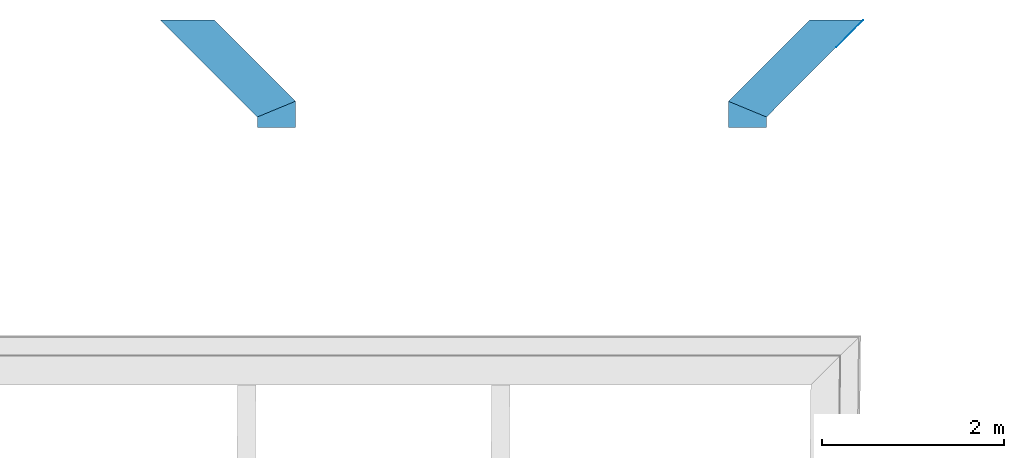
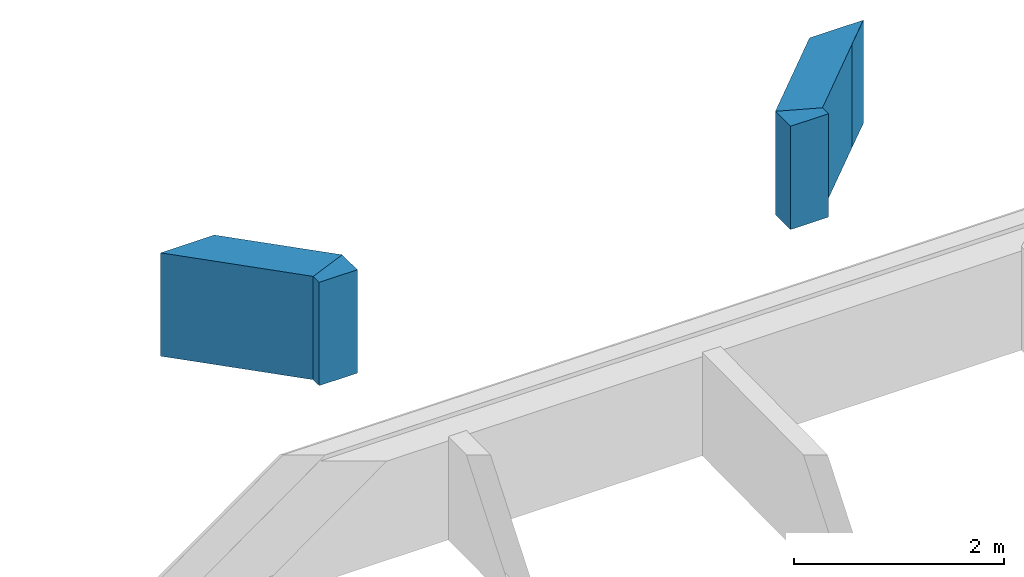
# One storey, part 10 of 16: 5 stairs.
"""IFC2X3 building model written with IfcOpenShell, lengths in millimetres."""

import ifcopenshell
import ifcopenshell.guid

model = None  # the IFC model being written
_history = None  # IfcOwnerHistory: only IFC2X3 demands one
_inside = {}  # id of a spatial element -> (the spatial element, [elements in it])
_under = {}  # id of a project, library or spatial element -> (it, [spatial elements below it])
_declared = {}  # id of a project -> (the project, [libraries it declares])
_typed = {}  # id of a type object -> (the type object, [elements of that type])
_made_of = {}  # id of a material, layer set ... -> (it, [elements and type objects made of it])


def new_model(schema):
    """Start an empty IFC model of exactly this schema.

    Asked for "IFC4X3", IfcOpenShell would pick the latest addendum, in which some entities
    have other attributes; the version numbers below select the first issue.
    IFC2X3 requires an IfcOwnerHistory on every rooted entity: one is made here for all.
    """
    global model, _history
    if schema == "IFC4X3":
        model = ifcopenshell.file(schema_version=(4, 3, 0, 0))
    else:
        model = ifcopenshell.file(schema=schema)
    _inside.clear()
    _under.clear()
    _declared.clear()
    _typed.clear()
    _made_of.clear()
    _history = None
    if model.schema == "IFC2X3":
        org = make("IfcOrganization", Name="unknown")
        user = make(
            "IfcPersonAndOrganization",
            ThePerson=make("IfcPerson", FamilyName="unknown"),
            TheOrganization=org,
        )
        app = make(
            "IfcApplication",
            ApplicationDeveloper=org,
            Version="unknown",
            ApplicationFullName="unknown",
            ApplicationIdentifier="unknown",
        )
        _history = make(
            "IfcOwnerHistory",
            OwningUser=user,
            OwningApplication=app,
            ChangeAction="ADDED",
            CreationDate=0,
        )
    return model


def make(cls, **values):
    """One entity of the class cls with the attributes given. An attribute that is None is left unset."""
    return model.create_entity(
        cls, **{name: value for name, value in values.items() if value is not None}
    )


def entity(cls, *values):
    """Any entity or typed value of the class cls, its attributes in the order of the schema. None: left unset."""
    e = model.create_entity(cls)
    for i, value in enumerate(values):
        if value is not None:
            e[i] = value
    return e


def rooted(cls, **values):
    """An entity with a GlobalId (a new one), such as an element, a storey or a relation."""
    return make(cls, GlobalId=ifcopenshell.guid.new(), OwnerHistory=_history, **values)


def si_unit(unit_type, name, prefix=None):
    """IfcSIUnit, for example si_unit("LENGTHUNIT", "METRE", prefix="MILLI")."""
    return make("IfcSIUnit", UnitType=unit_type, Prefix=prefix, Name=name)


def converted_unit(unit_type, name, factor, base, dimensions=None, offset=None):
    """IfcConversionBasedUnit, such as the inch: factor (a typed value) times the base unit."""
    return make(
        "IfcConversionBasedUnit"
        if offset is None
        else "IfcConversionBasedUnitWithOffset",
        ConversionOffset=offset,
        Dimensions=None
        if dimensions is None
        else entity("IfcDimensionalExponents", *dimensions),
        UnitType=unit_type,
        Name=name,
        ConversionFactor=make(
            "IfcMeasureWithUnit", ValueComponent=factor, UnitComponent=base
        ),
    )


def derived_unit(unit_type, elements):
    """IfcDerivedUnit: a product of units, each with its exponent."""
    return make(
        "IfcDerivedUnit",
        Elements=[
            make("IfcDerivedUnitElement", Unit=unit, Exponent=power)
            for unit, power in elements
        ],
        UnitType=unit_type,
    )


def money_unit(currency):
    """IfcMonetaryUnit."""
    return make("IfcMonetaryUnit", Currency=currency)


def assignment(units):
    """IfcUnitAssignment: the units of a project."""
    return None if units is None else make("IfcUnitAssignment", Units=units)


def point(xyz):
    """IfcCartesianPoint."""
    return None if xyz is None else make("IfcCartesianPoint", Coordinates=xyz)


def direction(xyz):
    """IfcDirection."""
    return None if xyz is None else make("IfcDirection", DirectionRatios=xyz)


def frame(location, z_axis=None, x_axis=None):
    """IfcAxis2Placement3D, a coordinate frame: its origin and axes. An axis left out is left unset."""
    return make(
        "IfcAxis2Placement3D",
        Location=point(location),
        Axis=direction(z_axis),
        RefDirection=direction(x_axis),
    )


def origin_with_axes():
    """The frame at (0, 0, 0) with the z axis (0, 0, 1) and the x axis (1, 0, 0) written out."""
    return frame((0.0, 0.0, 0.0), z_axis=(0.0, 0.0, 1.0), x_axis=(1.0, 0.0, 0.0))


def place(relative_to, where):
    """IfcLocalPlacement: puts the frame where relative to a parent placement (None: the world)."""
    return make(
        "IfcLocalPlacement", PlacementRelTo=relative_to, RelativePlacement=where
    )


def context(
    kind, dimensions, precision=None, world=None, true_north=None, identifier=None
):
    """IfcGeometricRepresentationContext, for example the 3D "Model" context."""
    return make(
        "IfcGeometricRepresentationContext",
        ContextIdentifier=identifier,
        ContextType=kind,
        CoordinateSpaceDimension=dimensions,
        Precision=precision,
        WorldCoordinateSystem=world,
        TrueNorth=true_north,
    )


def subcontext(parent, identifier, kind, view, scale=None):
    """IfcGeometricRepresentationSubContext, for example "Body" below "Model"."""
    return make(
        "IfcGeometricRepresentationSubContext",
        ContextIdentifier=identifier,
        ContextType=kind,
        ParentContext=parent,
        TargetScale=scale,
        TargetView=view,
    )


def project(units=None, contexts=None):
    """IfcProject with its units and contexts."""
    return rooted(
        "IfcProject",
        Name="project",
        RepresentationContexts=contexts,
        UnitsInContext=assignment(units),
    )


def spatial(cls, under=None, at=None, **own):
    """A site, building, storey or space (cls), placed at a placement, below another one or the project."""
    s = rooted(cls, ObjectPlacement=at, **own)
    if under is not None:
        _under.setdefault(under.id(), (under, []))[1].append(s)
    return s


def polyline(points):
    """IfcPolyline through the points."""
    return make("IfcPolyline", Points=[point(p) for p in points])


def outline(outer, holes=None, kind="AREA"):
    """IfcArbitraryClosedProfileDef: a profile drawn as a closed curve; with holes, ...WithVoids."""
    if holes is None:
        return make("IfcArbitraryClosedProfileDef", ProfileType=kind, OuterCurve=outer)
    return make(
        "IfcArbitraryProfileDefWithVoids",
        ProfileType=kind,
        OuterCurve=outer,
        InnerCurves=holes,
    )


def extrude(swept, where, along, depth):
    """IfcExtrudedAreaSolid: the profile swept, set in the frame where, extruded along a direction by depth."""
    return make(
        "IfcExtrudedAreaSolid",
        SweptArea=swept,
        Position=where,
        ExtrudedDirection=direction(along),
        Depth=depth,
    )


def shape(context_of_items, identifier, shape_type, items):
    """IfcShapeRepresentation: the items that make up one representation, for example the "Body"."""
    return make(
        "IfcShapeRepresentation",
        ContextOfItems=context_of_items,
        RepresentationIdentifier=identifier,
        RepresentationType=shape_type,
        Items=items,
    )


def material(Name=None, Category=None):
    """IfcMaterial."""
    return make("IfcMaterial", Name=Name, Category=Category)


def made_of(thing, what):
    """Note that an element or type object is made of a material, layer set ...; save() writes the relation."""
    if what is not None:
        _made_of.setdefault(what.id(), (what, []))[1].append(thing)
    return thing


def element(
    cls,
    number,
    at=None,
    inside=None,
    cuts=None,
    type_object=None,
    material=None,
    context=None,
    identifier="Body",
    shape_type=None,
    held_by="IfcProductDefinitionShape",
    body=None,
    shapes=None,
    **own,
):
    """One element of the class cls, such as IfcWall. Its Tag is "e" and its number.

    at: its placement. inside: the storey or other place that contains it. cuts: it is an
    opening in that element (IfcRelVoidsElement). A single representation is given by context,
    identifier, shape_type and body (its items); several are given by shapes. held_by: the class
    of the entity that holds the representations. save() writes the other relations.
    """
    e = rooted(cls, Tag="e%d" % number, ObjectPlacement=at, **own)
    if body is not None:
        shapes = [shape(context, identifier, shape_type, body)]
    if shapes is not None:
        e.Representation = make(held_by, Representations=shapes)
    if inside is not None:
        _inside.setdefault(inside.id(), (inside, []))[1].append(e)
    if cuts is not None:
        rooted(
            "IfcRelVoidsElement", RelatingBuildingElement=cuts, RelatedOpeningElement=e
        )
    if type_object is not None:
        _typed.setdefault(type_object.id(), (type_object, []))[1].append(e)
    return made_of(e, material)


def aggregate(whole, parts):
    """IfcRelAggregates: a whole, such as a stair, and the parts it consists of."""
    return rooted("IfcRelAggregates", RelatingObject=whole, RelatedObjects=parts)


def save(model, path):
    """Write the relations noted so far, then the file.

    IfcRelAggregates (storeys below a building ...), IfcRelContainedInSpatialStructure (elements
    in a storey), IfcRelDefinesByType, IfcRelAssociatesMaterial and IfcRelDeclares: one each for
    every whole, place, type object, material and project.
    """
    for whole, parts in _under.values():
        aggregate(whole, parts)
    for where, things in _inside.values():
        rooted(
            "IfcRelContainedInSpatialStructure",
            RelatedElements=things,
            RelatingStructure=where,
        )
    for kind, things in _typed.values():
        rooted("IfcRelDefinesByType", RelatedObjects=things, RelatingType=kind)
    for what, things in _made_of.values():
        rooted("IfcRelAssociatesMaterial", RelatedObjects=things, RelatingMaterial=what)
    for by, libraries in _declared.values():
        rooted("IfcRelDeclares", RelatingContext=by, RelatedDefinitions=libraries)
    model.write(path)


model = new_model("IFC2X3")

# Units and contexts
model_context = context("Model", 3, precision=0.01, world=origin_with_axes(), true_north=direction((0.0, 1.0)))
body_context = subcontext(model_context, "Body", "Model", "MODEL_VIEW")
ifc_project = project(units=[si_unit("LENGTHUNIT", "METRE", prefix="MILLI"), si_unit("AREAUNIT", "SQUARE_METRE"), si_unit("VOLUMEUNIT", "CUBIC_METRE"), converted_unit("PLANEANGLEUNIT", "DEGREE", entity("IfcPlaneAngleMeasure", 0.0174532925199), si_unit("PLANEANGLEUNIT", "RADIAN"), dimensions=[0, 0, 0, 0, 0, 0, 0]), si_unit("SOLIDANGLEUNIT", "STERADIAN"), money_unit("EUR"), converted_unit("TIMEUNIT", "Year", entity("IfcTimeMeasure", 31556926.0), si_unit("TIMEUNIT", "SECOND"), dimensions=[0, 0, 1, 0, 0, 0, 0]), si_unit("MASSUNIT", "GRAM", prefix="KILO"), si_unit("THERMODYNAMICTEMPERATUREUNIT", "DEGREE_CELSIUS"), si_unit("LUMINOUSINTENSITYUNIT", "LUMEN"), si_unit("ENERGYUNIT", "JOULE", prefix="MEGA"), derived_unit("THERMALCONDUCTANCEUNIT", [(si_unit("POWERUNIT", "WATT"), 1), (si_unit("LENGTHUNIT", "METRE"), -1), (si_unit("THERMODYNAMICTEMPERATUREUNIT", "KELVIN"), -1)]), derived_unit("SPECIFICHEATCAPACITYUNIT", [(si_unit("ENERGYUNIT", "JOULE"), 1), (si_unit("MASSUNIT", "GRAM", prefix="KILO"), -1), (si_unit("THERMODYNAMICTEMPERATUREUNIT", "KELVIN"), -1)]), derived_unit("MASSDENSITYUNIT", [(si_unit("MASSUNIT", "GRAM", prefix="KILO"), 1), (si_unit("VOLUMEUNIT", "CUBIC_METRE"), -1)])], contexts=[model_context])

# Site, building, storey
site_placement = place(None, origin_with_axes())
site = spatial("IfcSite", under=ifc_project, at=site_placement, Name="Paldiski mnt 245/1, Tallinn, Harjumaa", CompositionType="COMPLEX")
building_placement = place(site_placement, origin_with_axes())
building = spatial("IfcBuilding", under=site, at=building_placement, Name="RKAS Hoone üldnimetus (kasutust iseloomustav) -> IFC Project Manager -> SOLIBRI", CompositionType="ELEMENT")
storey_placement = place(building_placement, frame((0.0, 0.0, -1200.0), z_axis=(0.0, 0.0, 1.0), x_axis=(1.0, 0.0, 0.0)))
storey = spatial("IfcBuildingStorey", under=building, at=storey_placement, Name="Vundament", CompositionType="ELEMENT", Elevation=-1200.0)

# Stairs
ifc_material = material(Name="ET-02_Raudbetoon - Toode")
stair_1_placement = place(storey_placement, frame((-47049.9244023, 39477.9927547, 0.0), z_axis=(0.0, 0.0, 1.0), x_axis=(0.708270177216, 0.705941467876, 0.0)))
element("IfcStair", 1, at=stair_1_placement, inside=storey, material=ifc_material, Name="Trepp", ShapeType="NOTDEFINED", context=body_context, shape_type="SweptSolid", body=[
    extrude(outline(polyline([(0.0, 0.0), (422.498664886, 0.0), (420.078818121, 1.0), (0.0, 1.0), (0.0, 0.0)])), origin_with_axes(), (0.0, 0.0, 1.0), 1200.0),
])
stair_2_placement = place(storey_placement, frame((-48233.2840938, 38883.4751694, 0.0), z_axis=(0.0, 0.0, 1.0), x_axis=(0.0, -1.0, 0.0)))
element("IfcStair", 2, at=stair_2_placement, inside=storey, material=ifc_material, Name="Trepp", ShapeType="NOTDEFINED", context=body_context, shape_type="SweptSolid", body=[
    extrude(outline(polyline([(0.0, 0.0), (286.827866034, 0.0), (286.827866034, 418.0), (172.824632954, 418.0), (0.0, 0.0)])), origin_with_axes(), (0.0, 0.0, 1.0), 1200.0),
])
stair_3_placement = place(storey_placement, frame((-47342.8137841, 39776.2520824, 0.0), z_axis=(0.0, 0.0, 1.0), x_axis=(-0.706191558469, -0.708020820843, 0.0)))
element("IfcStair", 3, at=stair_3_placement, inside=storey, material=ifc_material, Name="Trepp", ShapeType="NOTDEFINED", context=body_context, shape_type="SweptSolid", body=[
    extrude(outline(polyline([(0.0, 0.0), (1260.94725847, 0.0), (1088.12262552, 418.0), (-415.507655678, 418.0), (0.0, 0.0)])), origin_with_axes(), (0.0, 0.0, 1.0), 1200.0),
])
stair_4_placement = place(storey_placement, frame((-52989.7693112, 38883.4751694, 0.0), z_axis=(0.0, 0.0, 1.0), x_axis=(0.0, -1.0, 0.0)))
element("IfcStair", 4, at=stair_4_placement, inside=storey, material=ifc_material, Name="Trepp", ShapeType="NOTDEFINED", context=body_context, shape_type="SweptSolid", body=[
    extrude(outline(polyline([(172.824632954, -418.0), (286.827866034, -418.0), (286.827866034, 0.0), (0.0, 0.0), (172.824632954, -418.0)])), origin_with_axes(), (0.0, 0.0, 1.0), 1200.0),
])
stair_5_placement = place(storey_placement, frame((-53880.2396209, 39776.2520824, 0.0), z_axis=(0.0, 0.0, 1.0), x_axis=(0.706191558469, -0.708020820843, 0.0)))
element("IfcStair", 5, at=stair_5_placement, inside=storey, material=ifc_material, Name="Trepp", ShapeType="NOTDEFINED", context=body_context, shape_type="SweptSolid", body=[
    extrude(outline(polyline([(-415.507655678, -418.0), (1088.12262552, -418.0), (1260.94725847, 0.0), (0.0, 0.0), (-415.507655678, -418.0)])), origin_with_axes(), (0.0, 0.0, 1.0), 1200.0),
])

save(model, "model.ifc")
